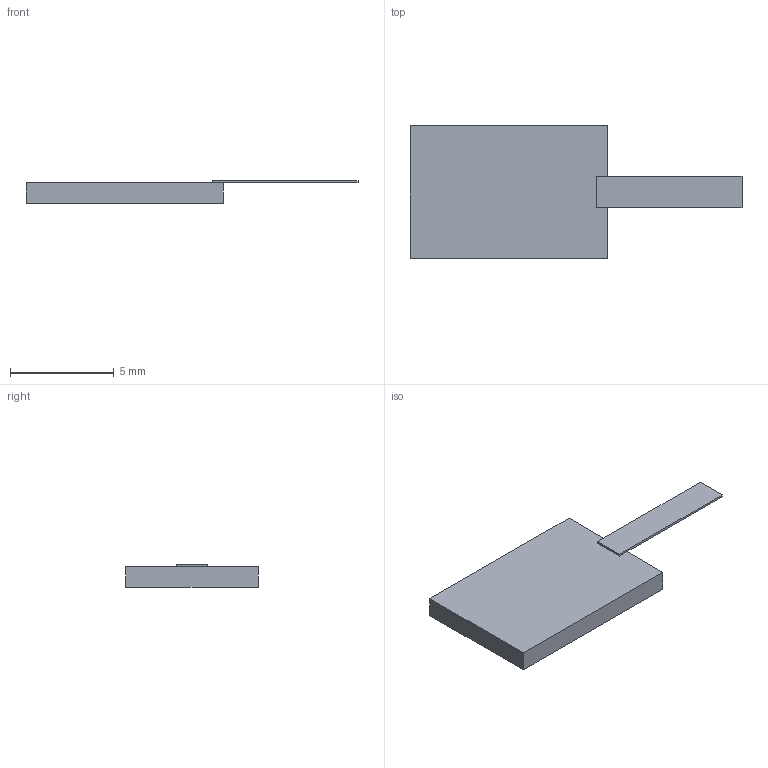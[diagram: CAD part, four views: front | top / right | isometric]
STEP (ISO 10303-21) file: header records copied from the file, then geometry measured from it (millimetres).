
FILE_DESCRIPTION(('STEP AP203'), '1');
FILE_NAME('P1-170-150-35', '', ('UNSPECIFIED'), ('UNSPECIFIED'), 'ASCON STEP Converter 1.6', 'ASCON Math Kernel', '');
FILE_SCHEMA(('CONFIG_CONTROL_DESIGN'));
Length unit declared in the file: millimetre
Bounding box: 16 x 6.4 x 1.1 mm (x, y, z)
Volume: 61.9 mm3; surface area: 174.6 mm2
Topology: 1 solids, 1 shells, 12 faces, 28 edges, 18 vertices
Faces by surface type: plane 12
Entity records: 476 total; most frequent: CARTESIAN_POINT 59, ORIENTED_EDGE 56, DIRECTION 54, EDGE_CURVE 28, LINE 28, VECTOR 28, VERTEX_POINT 18, AXIS2_PLACEMENT_3D 13
